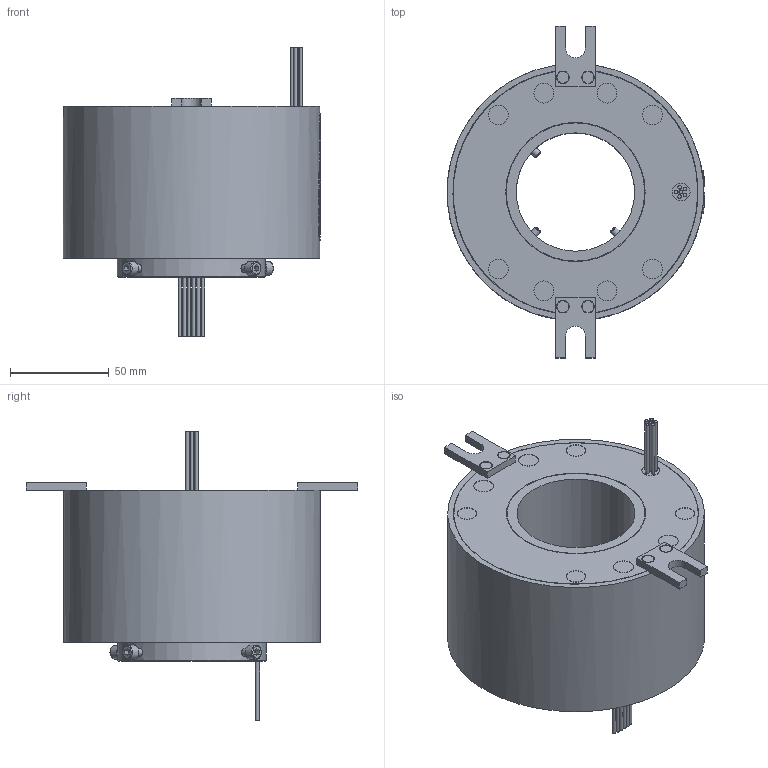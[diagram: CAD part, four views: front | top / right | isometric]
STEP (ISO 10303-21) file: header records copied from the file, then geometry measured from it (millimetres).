
FILE_DESCRIPTION(/* description */ (''),/* implementation_level */ '2;1');
FILE_NAME(/* name */ 'YDF60130-0610.stp',/* time_stamp */ '2025-09-12T08:28:17+08:00',/* author */ (''),/* organization */ (''),/* preprocessor_version */ 'ST-DEVELOPER v16.7',/* originating_system */ 'SIEMENS PLM Software NX 12.0',/* authorisation */ '');
FILE_SCHEMA (('AUTOMOTIVE_DESIGN { 1 0 10303 214 3 1 1 1 }'));
Length unit declared in the file: millimetre
Products named in the file (1): Admi2290F644g8dw
Bounding box: 130.46 x 168 x 146.3 mm (x, y, z)
Volume: 825732.1 mm3; surface area: 78211.2 mm2
Topology: 1 solids, 5 shells, 911 faces, 2424 edges, 1614 vertices
Faces by surface type: extrusion 452, plane 331, cylinder 78, bspline 33, cone 13, torus 4
Full cylindrical faces by diameter (mm): 1.8 x12, 3 x4, 3.4 x1, 3.5 x4, 4 x7, 6 x4, 7 x4, 9 x1, 10 x8, 59.9 x1, 70 x1, 70.5 x1, 75 x1, 123.8 x2, 124 x2, 130 x1
Entity records: 35989 total; most frequent: CARTESIAN_POINT 17005, ORIENTED_EDGE 4646, EDGE_CURVE 2323, B_SPLINE_CURVE_WITH_KNOTS 2204, DIRECTION 2166, VERTEX_POINT 1584, EDGE_LOOP 1087, ADVANCED_FACE 911
